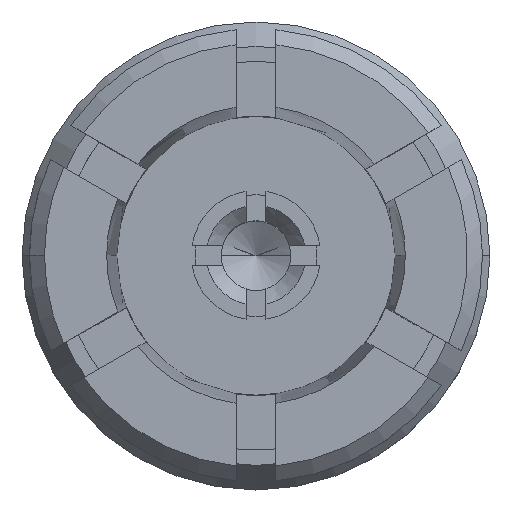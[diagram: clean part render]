
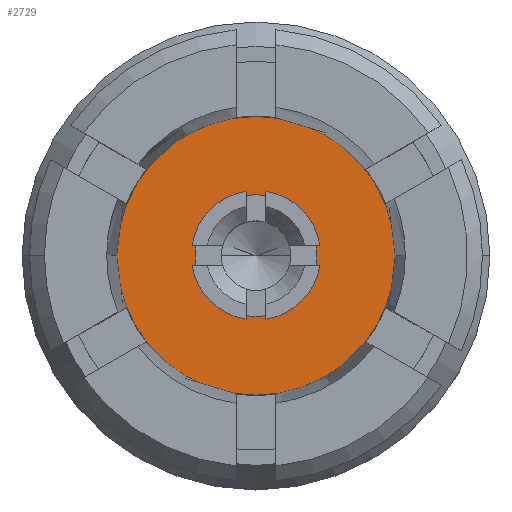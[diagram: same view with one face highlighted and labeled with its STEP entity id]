
A CAD part, top view. The second image highlights one B-rep face of the part: STEP entity #2729.
In plain terms, the highlighted planar face has unit normal (0, 0, 1).
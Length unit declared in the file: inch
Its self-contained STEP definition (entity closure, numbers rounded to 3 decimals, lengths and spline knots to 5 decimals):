
#160 = CARTESIAN_POINT ( 'NONE',  ( 0., 0., -0.063 ) ) ;
#167 = ORIENTED_EDGE ( 'NONE', *, *, #4909, .T. ) ;
#329 = VERTEX_POINT ( 'NONE', #1690 ) ;
#351 = VERTEX_POINT ( 'NONE', #841 ) ;
#551 = AXIS2_PLACEMENT_3D ( 'NONE', #1012, #4110, #1456 ) ;
#579 = PLANE ( 'NONE',  #2007 ) ;
#584 = EDGE_CURVE ( 'NONE', #351, #2633, #642, .T. ) ;
#613 = DIRECTION ( 'NONE',  ( -1., 0., 0. ) ) ;
#642 = CIRCLE ( 'NONE', #4997, 0.012 ) ;
#647 = FACE_OUTER_BOUND ( 'NONE', #2589, .T. ) ;
#841 = CARTESIAN_POINT ( 'NONE',  ( -0.012, 0., -0.063 ) ) ;
#897 = ORIENTED_EDGE ( 'NONE', *, *, #4833, .T. ) ;
#1012 = CARTESIAN_POINT ( 'NONE',  ( 0., 0., -0.063 ) ) ;
#1130 = VERTEX_POINT ( 'NONE', #3336 ) ;
#1297 = DIRECTION ( 'NONE',  ( 0., 0., 1. ) ) ;
#1363 = CARTESIAN_POINT ( 'NONE',  ( 0.012, 0., -0.063 ) ) ;
#1456 = DIRECTION ( 'NONE',  ( 1., 0., 0. ) ) ;
#1690 = CARTESIAN_POINT ( 'NONE',  ( 0.028, 0., -0.063 ) ) ;
#2007 = AXIS2_PLACEMENT_3D ( 'NONE', #2311, #4998, #2332 ) ;
#2021 = CARTESIAN_POINT ( 'NONE',  ( 0., 0., -0.063 ) ) ;
#2162 = CIRCLE ( 'NONE', #551, 0.028 ) ;
#2311 = CARTESIAN_POINT ( 'NONE',  ( 0., 0.03302, -0.063 ) ) ;
#2332 = DIRECTION ( 'NONE',  ( -1., 0., 0. ) ) ;
#2467 = DIRECTION ( 'NONE',  ( -1., 0., 0. ) ) ;
#2589 = EDGE_LOOP ( 'NONE', ( #897, #167 ) ) ;
#2633 = VERTEX_POINT ( 'NONE', #1363 ) ;
#2729 = ADVANCED_FACE ( 'NONE', ( #647, #4306 ), #579, .F. ) ;
#2805 = ORIENTED_EDGE ( 'NONE', *, *, #2896, .F. ) ;
#2862 = CIRCLE ( 'NONE', #3620, 0.028 ) ;
#2896 = EDGE_CURVE ( 'NONE', #2633, #351, #3602, .T. ) ;
#3245 = DIRECTION ( 'NONE',  ( 0., 0., 1. ) ) ;
#3336 = CARTESIAN_POINT ( 'NONE',  ( -0.028, 0., -0.063 ) ) ;
#3602 = CIRCLE ( 'NONE', #5272, 0.012 ) ;
#3620 = AXIS2_PLACEMENT_3D ( 'NONE', #3949, #1297, #4391 ) ;
#3944 = EDGE_LOOP ( 'NONE', ( #2805, #4991 ) ) ;
#3949 = CARTESIAN_POINT ( 'NONE',  ( 0., 0., -0.063 ) ) ;
#4110 = DIRECTION ( 'NONE',  ( 0., 0., 1. ) ) ;
#4306 = FACE_BOUND ( 'NONE', #3944, .T. ) ;
#4391 = DIRECTION ( 'NONE',  ( 1., 0., 0. ) ) ;
#4833 = EDGE_CURVE ( 'NONE', #329, #1130, #2862, .T. ) ;
#4909 = EDGE_CURVE ( 'NONE', #1130, #329, #2162, .T. ) ;
#4991 = ORIENTED_EDGE ( 'NONE', *, *, #584, .F. ) ;
#4997 = AXIS2_PLACEMENT_3D ( 'NONE', #160, #3245, #613 ) ;
#4998 = DIRECTION ( 'NONE',  ( 0., 0., -1. ) ) ;
#5131 = DIRECTION ( 'NONE',  ( 0., 0., 1. ) ) ;
#5272 = AXIS2_PLACEMENT_3D ( 'NONE', #2021, #5131, #2467 ) ;
